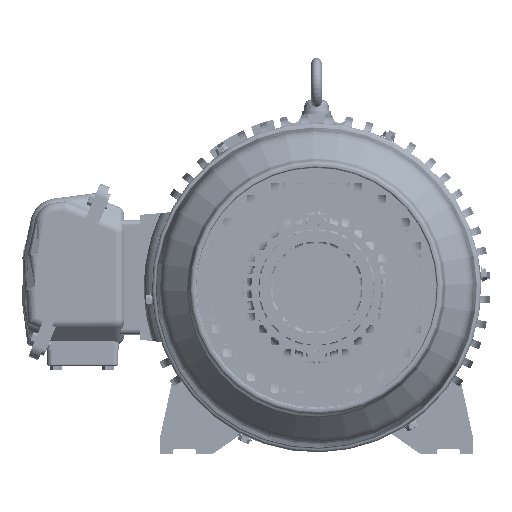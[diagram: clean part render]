
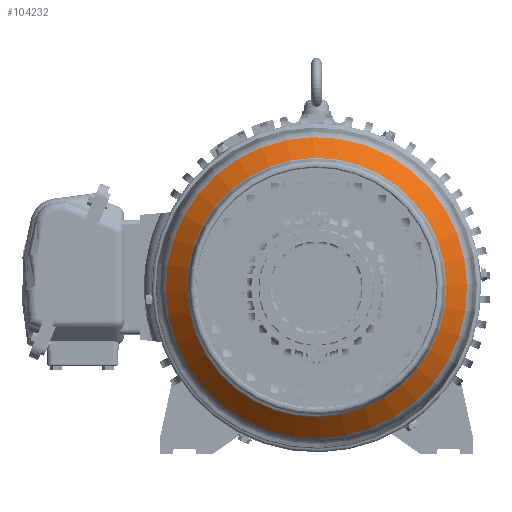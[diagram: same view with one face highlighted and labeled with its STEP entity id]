
A CAD part, front view. The second image highlights one B-rep face of the part: STEP entity #104232.
In plain terms, the highlighted conical face has half-angle 44.148 degrees and reference radius 124.85 mm.
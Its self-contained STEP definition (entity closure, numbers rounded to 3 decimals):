
#10579=FACE_OUTER_BOUND('',#16367,.T.);
#16367=EDGE_LOOP('',(#74165,#74166,#74167,#74168));
#22815=CIRCLE('',#110813,144.803);
#22816=CIRCLE('',#110815,124.851);
#27352=LINE('',#159620,#35345);
#35345=VECTOR('',#124362,124.851);
#44052=VERTEX_POINT('',#159615);
#44053=VERTEX_POINT('',#159619);
#55690=EDGE_CURVE('',#44052,#44052,#22815,.T.);
#55691=EDGE_CURVE('',#44052,#44053,#27352,.T.);
#55692=EDGE_CURVE('',#44053,#44053,#22816,.T.);
#74165=ORIENTED_EDGE('',*,*,#55690,.F.);
#74166=ORIENTED_EDGE('',*,*,#55691,.T.);
#74167=ORIENTED_EDGE('',*,*,#55692,.T.);
#74168=ORIENTED_EDGE('',*,*,#55691,.F.);
#103203=CONICAL_SURFACE('',#110814,124.851,0.771);
#104232=ADVANCED_FACE('',(#10579),#103203,.T.);
#110813=AXIS2_PLACEMENT_3D('',#159617,#124358,#124359);
#110814=AXIS2_PLACEMENT_3D('',#159618,#124360,#124361);
#110815=AXIS2_PLACEMENT_3D('',#159621,#124363,#124364);
#124358=DIRECTION('center_axis',(0.,1.,0.));
#124359=DIRECTION('ref_axis',(0.,0.,-1.));
#124360=DIRECTION('center_axis',(0.,1.,0.));
#124361=DIRECTION('ref_axis',(0.878,0.,-0.479));
#124362=DIRECTION('',(0.611,-0.718,-0.334));
#124363=DIRECTION('center_axis',(0.,1.,0.));
#124364=DIRECTION('ref_axis',(0.,0.,-1.));
#159615=CARTESIAN_POINT('',(-127.076,-291.569,69.422));
#159617=CARTESIAN_POINT('Origin',(0.,-291.569,0.));
#159618=CARTESIAN_POINT('Origin',(0.,-312.124,0.));
#159619=CARTESIAN_POINT('',(-109.567,-312.124,59.857));
#159620=CARTESIAN_POINT('',(-109.567,-312.124,59.857));
#159621=CARTESIAN_POINT('Origin',(0.,-312.124,0.));
